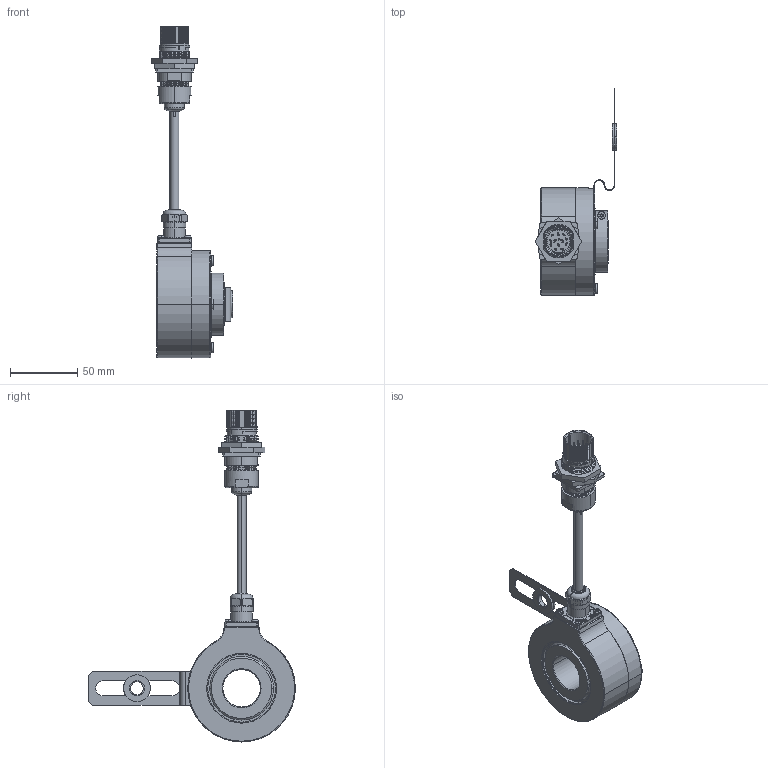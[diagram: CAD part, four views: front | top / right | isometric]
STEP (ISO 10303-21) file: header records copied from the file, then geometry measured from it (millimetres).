
FILE_DESCRIPTION (( 'STEP AP203' ), '1' );
FILE_NAME ('K80I.OXX.XXXXX.XH1D828.6XR14.XXXX.step', '2025-12-09T08:57:07', ( '' ), ( '' ), 'SwSTEP 2.0', 'SolidWorks 2021', '' );
FILE_SCHEMA (( 'CONFIG_CONTROL_DESIGN' ));
Products named in the file (1): K80I.OXX.XXXXX.XH1D828.6XR14.XXXX
Bounding box: 60.82 x 154.07 x 247.43 mm (x, y, z)
Volume: 224559.2 mm3; surface area: 89570.9 mm2
Topology: 33 solids, 33 shells, 2010 faces, 5144 edges, 3289 vertices
Faces by surface type: cylinder 769, plane 619, cone 386, bspline 130, torus 64, sphere 42
Entity records: 69154 total; most frequent: CARTESIAN_POINT 21266, ORIENTED_EDGE 10224, DIRECTION 9813, EDGE_CURVE 5112, AXIS2_PLACEMENT_3D 3854, VERTEX_POINT 3289, EDGE_LOOP 2219, LINE 2105
